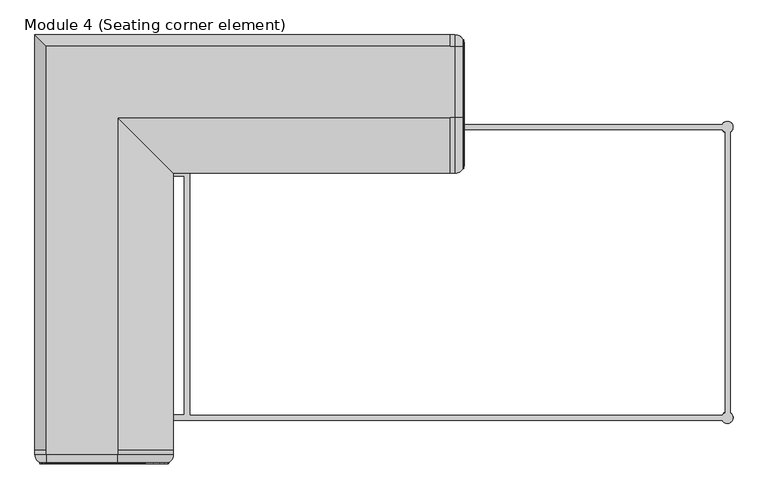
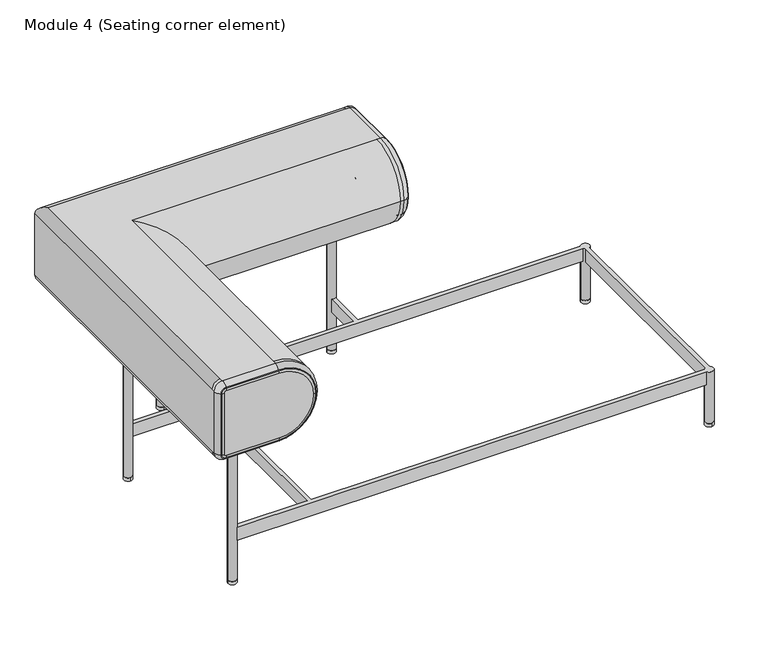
"""IFC4 building model written with IfcOpenShell, lengths in millimetres: furniture geometry, Module 4 (Seating corner element) : 1600х930х710мм."""

from ifc_helpers import new_model, si_unit, point, frame, frame_2d, origin, origin_with_axes, place, context, project, spatial, circle_curve, ellipse_curve, trimmed, segment, composite_curve, outline, extrude, source, transform, mapped, element, save
from ifc_brep_helpers import plane_surface, cylinder_surface, revolved_surface, advanced_brep


def module_4_seating_corner_element_8d6210f8(model_context):
    return source(origin(), model_context, "Body", "SolidModel", [
        extrude(outline(composite_curve([segment(trimmed(circle_curve(frame_2d((-30.0, -300.0281998)), 12.5), [point((-30.0, -312.5281998))], [point((-30.0, -287.5281998))], False, "CARTESIAN"), True, "CONTINUOUS"), segment(trimmed(circle_curve(frame_2d((-30.0, -300.0281998)), 12.5), [point((-30.0, -287.5281998))], [point((-30.0, -312.5281998))], False, "CARTESIAN"), True, "CONTINUOUS")], self_intersect=False)), origin_with_axes(), (0.0, 0.0, 1.0), 10.0),
        extrude(outline(composite_curve([segment(trimmed(circle_curve(frame_2d((-30.0, -830.0)), 12.5), [point((-17.5, -830.0))], [point((-42.5, -830.0))], False, "CARTESIAN"), True, "CONTINUOUS"), segment(trimmed(circle_curve(frame_2d((-30.0, -830.0)), 12.5), [point((-42.5, -830.0))], [point((-17.5, -830.0))], False, "CARTESIAN"), True, "CONTINUOUS")], self_intersect=False)), origin_with_axes(), (0.0, 0.0, 1.0), 10.0),
        extrude(outline(composite_curve([segment(trimmed(circle_curve(frame_2d((1370.0, -200.0)), 12.5), [point((1382.5, -200.0))], [point((1357.5, -200.0))], False, "CARTESIAN"), True, "CONTINUOUS"), segment(trimmed(circle_curve(frame_2d((1370.0, -200.0)), 12.5), [point((1357.5, -200.0))], [point((1382.5, -200.0))], False, "CARTESIAN"), True, "CONTINUOUS")], self_intersect=False)), origin_with_axes(), (0.0, 0.0, 1.0), 10.0),
        extrude(outline(composite_curve([segment(trimmed(circle_curve(frame_2d((700.0, -70.0)), 12.5), [point((712.5, -70.0))], [point((687.5, -70.0))], False, "CARTESIAN"), True, "CONTINUOUS"), segment(trimmed(circle_curve(frame_2d((700.0, -70.0)), 12.5), [point((687.5, -70.0))], [point((712.5, -70.0))], False, "CARTESIAN"), True, "CONTINUOUS")], self_intersect=False)), origin_with_axes(), (0.0, 0.0, 1.0), 10.0),
        extrude(outline(composite_curve([segment(trimmed(circle_curve(frame_2d((1370.0, -830.0)), 12.5), [point((1370.0, -842.5))], [point((1370.0, -817.5))], False, "CARTESIAN"), True, "CONTINUOUS"), segment(trimmed(circle_curve(frame_2d((1370.0, -830.0)), 12.5), [point((1370.0, -817.5))], [point((1370.0, -842.5))], False, "CARTESIAN"), True, "CONTINUOUS")], self_intersect=False)), origin_with_axes(), (0.0, 0.0, 1.0), 10.0),
        extrude(outline(composite_curve([segment(trimmed(circle_curve(frame_2d((200.0, -70.0)), 12.5), [point((200.0, -82.5))], [point((200.0, -57.5))], False, "CARTESIAN"), True, "CONTINUOUS"), segment(trimmed(circle_curve(frame_2d((200.0, -70.0)), 12.5), [point((200.0, -57.5))], [point((200.0, -82.5))], False, "CARTESIAN"), True, "CONTINUOUS")], self_intersect=False)), origin_with_axes(), (0.0, 0.0, 1.0), 10.0),
        advanced_brep(
        [(206.0281998, -206.0281998, 130.0), (206.0281998, -206.0281998, 170.0), (206.0281998, -823.9718002, 170.0), (206.0281998, -823.9718002, 130.0), (194.0281998, -306.0281998, 170.0), (194.0281998, -306.0281998, 130.0), (194.0281998, -823.9718002, 130.0), (194.0281998, -823.9718002, 170.0), (194.0281998, -294.0281998, 130.0), (194.0281998, -294.0281998, 170.0), (194.0281998, -80.9812386, 170.0), (194.0281998, -80.9812386, 130.0), (1359.0496207, -823.9718002, 170.0), (1359.0496207, -823.9718002, 130.0), (1359.0187614, -835.9718002, 130.0), (1359.0187614, -835.9718002, 170.0), (-19.0187614, -835.9718002, 170.0), (-19.0187614, -835.9718002, 130.0), (1363.9718002, -819.0496207, 170.0), (1363.9718002, -210.9503793, 170.0), (1363.9718002, -210.9503793, 130.0), (1363.9718002, -819.0496207, 130.0), (1375.9718002, -819.0187614, 130.0), (1375.9718002, -210.9812386, 130.0), (1375.9718002, -210.9812386, 170.0), (1375.9718002, -819.0187614, 170.0), (1359.0496207, -206.0281998, 130.0), (1359.0496207, -206.0281998, 170.0), (1357.5, -830.0, 130.0), (-17.5, -830.0, 130.0), (-19.0496207, -823.9718002, 130.0), (-19.0341439, -306.0281998, 130.0), (-17.5, -300.0281998, 130.0), (-19.0341439, -294.0281998, 130.0), (206.0281998, -80.9503793, 130.0), (206.0281998, -194.0281998, 130.0), (694.0, -194.0281998, 130.0), (694.0, -80.9658561, 130.0), (706.0, -80.9658561, 130.0), (706.0, -194.0281998, 130.0), (1359.0187614, -194.0281998, 130.0), (1357.5, -200.0, 130.0), (1359.0187614, -194.0281998, 170.0), (706.0, -194.0281998, 170.0), (206.0281998, -194.0281998, 170.0), (694.0, -194.0281998, 170.0), (1382.5, -830.0, 170.0), (1382.5, -200.0, 170.0), (706.0, -80.9658561, 170.0), (694.0, -80.9658561, 170.0), (206.0281998, -80.9503793, 170.0), (-19.0341439, -294.0281998, 170.0), (-17.5, -300.0281998, 170.0), (-19.0341439, -306.0281998, 170.0), (-19.0496207, -823.9718002, 170.0), (-17.5, -830.0, 170.0), (1357.5, -830.0, 10.0), (1382.5, -830.0, 10.0), (1357.5, -200.0, 10.0), (1382.5, -200.0, 10.0), (187.5, -70.0, 460.0), (212.5, -70.0, 460.0), (687.5, -70.0, 460.0), (712.5, -70.0, 460.0), (-42.5, -830.0, 460.0), (-17.5, -830.0, 460.0), (-42.5, -300.0281998, 460.0), (-17.5, -300.0281998, 460.0), (187.5, -70.0, 10.0), (212.5, -70.0, 10.0), (687.5, -70.0, 10.0), (712.5, -70.0, 10.0), (-42.5, -830.0, 10.0), (-17.5, -830.0, 10.0), (-42.5, -300.0281998, 10.0), (-17.5, -300.0281998, 10.0)],
        [
            (0, 1),
            (1, 2),
            (2, 3),
            (3, 0),
            (4, 5),
            (5, 6),
            (6, 7),
            (7, 4),
            (8, 9),
            (9, 10),
            (10, 11),
            (11, 8),
            (2, 12),
            (12, 13),
            (13, 3),
            (14, 15),
            (15, 16),
            (16, 17),
            (17, 14),
            (18, 19),
            (19, 20),
            (20, 21),
            (21, 18),
            (22, 23),
            (23, 24),
            (24, 25),
            (25, 22),
            (0, 26),
            (26, 27),
            (27, 1),
            (13, 28, circle_curve(frame((1370.0, -830.0, 130.0), z_axis=(0.0, 0.0, 1.0), x_axis=(1.0, 0.0, 0.0)), 12.5)),
            (28, 14, circle_curve(frame((1370.0, -830.0, 130.0), z_axis=(0.0, 0.0, 1.0), x_axis=(1.0, 0.0, 0.0)), 12.5)),
            (17, 29, circle_curve(frame((-30.0, -830.0, 130.0), z_axis=(0.0, 0.0, 1.0), x_axis=(1.0, 0.0, 0.0)), 12.5)),
            (29, 30, circle_curve(frame((-30.0, -830.0, 130.0), z_axis=(0.0, 0.0, 1.0), x_axis=(1.0, 0.0, 0.0)), 12.5)),
            (30, 6),
            (5, 31),
            (31, 32, circle_curve(frame((-30.0, -300.0281998, 130.0), z_axis=(0.0, 0.0, 1.0), x_axis=(1.0, 0.0, 0.0)), 12.5)),
            (32, 33, circle_curve(frame((-30.0, -300.0281998, 130.0), z_axis=(0.0, 0.0, 1.0), x_axis=(1.0, 0.0, 0.0)), 12.5)),
            (33, 8),
            (11, 34, circle_curve(frame((200.0, -70.0, 130.0), z_axis=(0.0, 0.0, 1.0), x_axis=(1.0, 0.0, 0.0)), 12.5)),
            (34, 35),
            (35, 36),
            (36, 37),
            (37, 38, circle_curve(frame((700.0, -70.0, 130.0), z_axis=(0.0, 0.0, 1.0), x_axis=(1.0, 0.0, 0.0)), 12.5)),
            (38, 39),
            (39, 40),
            (40, 41, circle_curve(frame((1370.0, -200.0, 130.0), z_axis=(0.0, 0.0, 1.0), x_axis=(1.0, 0.0, 0.0)), 12.5)),
            (41, 26, circle_curve(frame((1370.0, -200.0, 130.0), z_axis=(0.0, 0.0, 1.0), x_axis=(1.0, 0.0, 0.0)), 12.5)),
            (22, 21, circle_curve(frame((1370.0, -830.0, 130.0), z_axis=(0.0, 0.0, 1.0), x_axis=(1.0, 0.0, 0.0)), 12.5)),
            (20, 23, circle_curve(frame((1370.0, -200.0, 130.0), z_axis=(0.0, 0.0, 1.0), x_axis=(1.0, 0.0, 0.0)), 12.5)),
            (42, 40),
            (39, 43),
            (43, 42),
            (35, 44),
            (44, 45),
            (45, 36),
            (15, 46, circle_curve(frame((1370.0, -830.0, 170.0), z_axis=(0.0, 0.0, 1.0), x_axis=(1.0, 0.0, 0.0)), 12.5)),
            (46, 25, circle_curve(frame((1370.0, -830.0, 170.0), z_axis=(0.0, 0.0, 1.0), x_axis=(1.0, 0.0, 0.0)), 12.5)),
            (24, 47, circle_curve(frame((1370.0, -200.0, 170.0), z_axis=(0.0, 0.0, 1.0), x_axis=(1.0, 0.0, 0.0)), 12.5)),
            (47, 42, circle_curve(frame((1370.0, -200.0, 170.0), z_axis=(0.0, 0.0, 1.0), x_axis=(1.0, 0.0, 0.0)), 12.5)),
            (43, 48),
            (48, 49, circle_curve(frame((700.0, -70.0, 170.0), z_axis=(0.0, 0.0, -1.0), x_axis=(1.0, 0.0, 0.0)), 12.5)),
            (49, 45),
            (44, 50),
            (50, 10, circle_curve(frame((200.0, -70.0, 170.0), z_axis=(0.0, 0.0, -1.0), x_axis=(1.0, 0.0, 0.0)), 12.5)),
            (9, 51),
            (51, 52, circle_curve(frame((-30.0, -300.0281998, 170.0), z_axis=(0.0, 0.0, -1.0), x_axis=(1.0, 0.0, 0.0)), 12.5)),
            (52, 53, circle_curve(frame((-30.0, -300.0281998, 170.0), z_axis=(0.0, 0.0, -1.0), x_axis=(1.0, 0.0, 0.0)), 12.5)),
            (53, 4),
            (7, 54),
            (54, 55, circle_curve(frame((-30.0, -830.0, 170.0), z_axis=(0.0, 0.0, -1.0), x_axis=(1.0, 0.0, 0.0)), 12.5)),
            (55, 16, circle_curve(frame((-30.0, -830.0, 170.0), z_axis=(0.0, 0.0, -1.0), x_axis=(1.0, 0.0, 0.0)), 12.5)),
            (27, 19, circle_curve(frame((1370.0, -200.0, 170.0), z_axis=(0.0, 0.0, 1.0), x_axis=(1.0, 0.0, 0.0)), 12.5)),
            (18, 12, circle_curve(frame((1370.0, -830.0, 170.0), z_axis=(0.0, 0.0, 1.0), x_axis=(1.0, 0.0, 0.0)), 12.5)),
            (56, 57, circle_curve(frame((1370.0, -830.0, 10.0), z_axis=(0.0, 0.0, -1.0), x_axis=(1.0, 0.0, 0.0)), 12.5)),
            (57, 56, circle_curve(frame((1370.0, -830.0, 10.0), z_axis=(0.0, 0.0, -1.0), x_axis=(1.0, 0.0, 0.0)), 12.5)),
            (58, 59, circle_curve(frame((1370.0, -200.0, 10.0), z_axis=(0.0, 0.0, -1.0), x_axis=(1.0, 0.0, 0.0)), 12.5)),
            (59, 58, circle_curve(frame((1370.0, -200.0, 10.0), z_axis=(0.0, 0.0, -1.0), x_axis=(1.0, 0.0, 0.0)), 12.5)),
            (57, 46),
            (28, 56),
            (59, 47),
            (41, 58),
            (60, 61, circle_curve(frame((200.0, -70.0, 460.0), z_axis=(0.0, 0.0, 1.0), x_axis=(1.0, 0.0, 0.0)), 12.5)),
            (61, 60, circle_curve(frame((200.0, -70.0, 460.0), z_axis=(0.0, 0.0, 1.0), x_axis=(1.0, 0.0, 0.0)), 12.5)),
            (62, 63, circle_curve(frame((700.0, -70.0, 460.0), z_axis=(0.0, 0.0, 1.0), x_axis=(1.0, 0.0, 0.0)), 12.5)),
            (63, 62, circle_curve(frame((700.0, -70.0, 460.0), z_axis=(0.0, 0.0, 1.0), x_axis=(1.0, 0.0, 0.0)), 12.5)),
            (64, 65, circle_curve(frame((-30.0, -830.0, 460.0), z_axis=(0.0, 0.0, 1.0), x_axis=(1.0, 0.0, 0.0)), 12.5)),
            (65, 64, circle_curve(frame((-30.0, -830.0, 460.0), z_axis=(0.0, 0.0, 1.0), x_axis=(1.0, 0.0, 0.0)), 12.5)),
            (66, 67, circle_curve(frame((-30.0, -300.0281998, 460.0), z_axis=(0.0, 0.0, 1.0), x_axis=(1.0, 0.0, 0.0)), 12.5)),
            (67, 66, circle_curve(frame((-30.0, -300.0281998, 460.0), z_axis=(0.0, 0.0, 1.0), x_axis=(1.0, 0.0, 0.0)), 12.5)),
            (68, 69, circle_curve(frame((200.0, -70.0, 10.0), z_axis=(0.0, 0.0, -1.0), x_axis=(1.0, 0.0, 0.0)), 12.5)),
            (69, 68, circle_curve(frame((200.0, -70.0, 10.0), z_axis=(0.0, 0.0, -1.0), x_axis=(1.0, 0.0, 0.0)), 12.5)),
            (70, 71, circle_curve(frame((700.0, -70.0, 10.0), z_axis=(0.0, 0.0, -1.0), x_axis=(1.0, 0.0, 0.0)), 12.5)),
            (71, 70, circle_curve(frame((700.0, -70.0, 10.0), z_axis=(0.0, 0.0, -1.0), x_axis=(1.0, 0.0, 0.0)), 12.5)),
            (72, 73, circle_curve(frame((-30.0, -830.0, 10.0), z_axis=(0.0, 0.0, -1.0), x_axis=(1.0, 0.0, 0.0)), 12.5)),
            (73, 72, circle_curve(frame((-30.0, -830.0, 10.0), z_axis=(0.0, 0.0, -1.0), x_axis=(1.0, 0.0, 0.0)), 12.5)),
            (74, 75, circle_curve(frame((-30.0, -300.0281998, 10.0), z_axis=(0.0, 0.0, -1.0), x_axis=(1.0, 0.0, 0.0)), 12.5)),
            (75, 74, circle_curve(frame((-30.0, -300.0281998, 10.0), z_axis=(0.0, 0.0, -1.0), x_axis=(1.0, 0.0, 0.0)), 12.5)),
            (60, 68),
            (69, 61),
            (50, 34),
            (62, 70),
            (71, 63),
            (48, 38),
            (37, 49),
            (64, 72),
            (73, 29),
            (55, 65),
            (54, 30),
            (53, 31),
            (33, 51),
            (66, 74),
            (75, 32),
            (52, 67),
        ],
        [
            plane_surface(frame((206.0281998, -206.0281998, 170.0), z_axis=(1.0, 0.0, 0.0), x_axis=(0.0, -1.0, 0.0))),
            plane_surface(frame((194.0281998, -194.0281998, 130.0), z_axis=(-1.0, 0.0, 0.0), x_axis=(0.0, -1.0, 0.0))),
            plane_surface(frame((206.0281998, -823.9718002, 170.0), z_axis=(0.0, 1.0, 0.0), x_axis=(1.0, 0.0, 0.0))),
            plane_surface(frame((194.0281998, -835.9718002, 130.0), z_axis=(0.0, -1.0, 0.0), x_axis=(1.0, 0.0, 0.0))),
            plane_surface(frame((1363.9718002, -823.9718002, 170.0), z_axis=(-1.0, 0.0, 0.0), x_axis=(0.0, 1.0, 0.0))),
            plane_surface(frame((1375.9718002, -835.9718002, 130.0), z_axis=(1.0, 0.0, 0.0), x_axis=(0.0, 1.0, 0.0))),
            plane_surface(frame((1363.9718002, -206.0281998, 170.0), z_axis=(0.0, -1.0, 0.0), x_axis=(-1.0, 0.0, 0.0))),
            plane_surface(frame((1363.9718002, -206.0281998, 130.0), z_axis=(0.0, 0.0, -1.0), x_axis=(-1.0, 0.0, 0.0))),
            plane_surface(frame((1375.9718002, -194.0281998, 130.0), z_axis=(0.0, 1.0, 0.0), x_axis=(-1.0, 0.0, 0.0))),
            plane_surface(frame((1375.9718002, -194.0281998, 170.0), z_axis=(0.0, 0.0, 1.0), x_axis=(-1.0, 0.0, 0.0))),
            plane_surface(frame((1382.5, -830.0, 10.0), z_axis=(0.0, 0.0, -1.0), x_axis=(0.0, -1.0, 0.0))),
            cylinder_surface(frame((1370.0, -830.0, 10.0), z_axis=(0.0, 0.0, 1.0), x_axis=(1.0, 0.0, 0.0)), 12.5),
            cylinder_surface(frame((1370.0, -200.0, 0.0), z_axis=(0.0, 0.0, 1.0), x_axis=(1.0, 0.0, 0.0)), 12.5),
            plane_surface(frame((212.5, -70.0, 460.0), z_axis=(0.0, 0.0, 1.0), x_axis=(0.0, 1.0, 0.0))),
            plane_surface(frame((212.5, -70.0, 10.0), z_axis=(0.0, 0.0, -1.0), x_axis=(0.0, -1.0, 0.0))),
            cylinder_surface(frame((200.0, -70.0, 10.0), z_axis=(0.0, 0.0, 1.0), x_axis=(1.0, 0.0, 0.0)), 12.5),
            cylinder_surface(frame((700.0, -70.0, 0.0), z_axis=(0.0, 0.0, 1.0), x_axis=(1.0, 0.0, 0.0)), 12.5),
            plane_surface(frame((206.0281998, -70.0, 170.0), z_axis=(1.0, 0.0, 0.0), x_axis=(0.0, -1.0, 0.0))),
            plane_surface(frame((706.0, -70.0, 170.0), z_axis=(1.0, 0.0, 0.0), x_axis=(0.0, -1.0, 0.0))),
            plane_surface(frame((694.0, -70.0, 130.0), z_axis=(-1.0, 0.0, 0.0), x_axis=(0.0, -1.0, 0.0))),
            cylinder_surface(frame((-30.0, -830.0, 0.0), z_axis=(0.0, 0.0, 1.0), x_axis=(1.0, 0.0, 0.0)), 12.5),
            plane_surface(frame((200.0, -823.9718002, 130.0), z_axis=(0.0, 1.0, 0.0), x_axis=(-1.0, 0.0, 0.0))),
            plane_surface(frame((206.0281998, -306.0281998, 170.0), z_axis=(0.0, -1.0, 0.0), x_axis=(-1.0, 0.0, 0.0))),
            plane_surface(frame((194.0281998, -294.0281998, 130.0), z_axis=(0.0, 1.0, 0.0), x_axis=(-1.0, 0.0, 0.0))),
            cylinder_surface(frame((-30.0, -300.0281998, 0.0), z_axis=(0.0, 0.0, 1.0), x_axis=(1.0, 0.0, 0.0)), 12.5),
        ],
        [
            (0, [[1, 2, 3, 4]]),
            (1, [[5, 6, 7, 8]]),
            (1, [[9, 10, 11, 12]]),
            (2, [[-3, 13, 14, 15]]),
            (3, [[16, 17, 18, 19]]),
            (4, [[20, 21, 22, 23]]),
            (5, [[24, 25, 26, 27]]),
            (6, [[-1, 28, 29, 30]]),
            (7, [[-15, 31, 32, -19, 33, 34, 35, -6, 36, 37, 38, 39, -12, 40, 41, 42, 43, 44, 45, 46, 47, 48, -28, -4]]),
            (7, [[-24, 49, -22, 50]]),
            (8, [[51, -46, 52, 53]]),
            (8, [[54, 55, 56, -42]]),
            (9, [[-17, 57, 58, -26, 59, 60, -53, 61, 62, 63, -55, 64, 65, -10, 66, 67, 68, 69, -8, 70, 71, 72], [-13, -2, -30, 73, -20, 74]]),
            (10, [[75, 76]]),
            (10, [[77, 78]]),
            (11, [[-76, 79, -57, -16, -32, 80]]),
            (11, [[-75, -80, -31, -14, -74, -23, -49, -27, -58, -79]]),
            (12, [[-78, 81, -59, -25, -50, -21, -73, -29, -48, 82]]),
            (12, [[-77, -82, -47, -51, -60, -81]]),
            (13, [[83, 84]]),
            (13, [[85, 86]]),
            (13, [[87, 88]]),
            (13, [[89, 90]]),
            (14, [[91, 92]]),
            (14, [[93, 94]]),
            (14, [[95, 96]]),
            (14, [[97, 98]]),
            (15, [[-83, 99, -92, 100], [101, -40, -11, -65]]),
            (15, [[-84, -100, -91, -99]]),
            (16, [[-85, 102, -94, 103], [104, -44, 105, -62]]),
            (16, [[-86, -103, -93, -102]]),
            (17, [[-64, -54, -41, -101]]),
            (18, [[-61, -52, -45, -104]]),
            (19, [[-43, -56, -63, -105]]),
            (20, [[-87, 106, -96, 107, -33, -18, -72, 108]]),
            (20, [[-88, -108, -71, 109, -34, -107, -95, -106]]),
            (21, [[-70, -7, -35, -109]]),
            (22, [[-36, -5, -69, 110]]),
            (23, [[-66, -9, -39, 111]]),
            (24, [[-89, 112, -98, 113, -37, -110, -68, 114]]),
            (24, [[-90, -114, -67, -111, -38, -113, -97, -112]]),
        ],
    ),
        advanced_brep(
        [(800.0, -180.0, 680.0), (800.0, -280.0, 580.0), (800.0, -180.0, 480.0), (800.0, -25.0, 480.0), (800.0, -20.0, 485.0), (800.0, -20.0, 675.0), (800.0, -25.0000011, 680.0), (798.319335, -180.0, 688.0250834), (798.319335, -288.0250834, 580.0), (780.0, -300.0, 580.0), (780.0, -180.0, 700.0), (770.0, -180.0, 700.0), (770.0, -300.0, 580.0), (798.319335, -180.0, 471.9749166), (770.0, -180.0, 460.0), (780.0, -180.0, 460.0), (798.319335, -25.0, 471.9749166), (50.0, -180.0, 460.0), (50.0, -900.0, 460.0), (50.0, -910.0, 460.0), (-105.0, -910.0, 460.0), (-105.0, -900.0, 460.0), (-105.0, -25.0, 460.0), (770.0, -25.0, 460.0), (780.0, -25.0, 460.0), (798.319335, -11.9749166, 485.0), (770.0, 0.0, 485.0), (780.0, 0.0, 485.0), (798.319335, -11.9749166, 675.0), (-130.0, 0.0, 485.0), (-130.0, 0.0, 675.0), (770.0, 0.0, 675.0), (780.0, 0.0, 675.0), (798.319335, -25.0, 688.0250834), (770.0, -25.0, 700.0), (780.0, -25.0, 700.0), (-105.0, -25.0, 700.0), (-105.0, -900.0, 700.0), (-105.0, -910.0, 700.0), (50.0, -910.0, 700.0), (50.0, -900.0, 700.0), (50.0, -180.0, 700.0), (797.9066419, -288.9079837, 580.0), (797.9066419, -180.0, 688.9079837), (797.9066419, -180.0, 471.0920163), (797.9066419, -25.0, 471.0920163), (797.9066419, -11.0920163, 485.0), (797.9066419, -11.0920163, 675.0), (797.9066419, -25.0, 688.9079837), (170.0, -300.0, 580.0), (-130.0, -900.0, 485.0), (-130.0, -910.0, 485.0), (-130.0, -910.0, 675.0), (-130.0, -900.0, 675.0), (170.0, -900.0, 580.0), (-105.0, -930.0, 680.0), (-110.0, -930.0, 675.0), (-110.0, -930.0, 485.0), (-105.0, -930.0, 480.0), (50.0, -930.0, 480.0), (150.0, -930.0, 580.0), (49.9999944, -930.0, 680.0), (-105.0, -928.2181361, 688.2522432), (-118.2522432, -928.2181361, 675.0), (-118.2522432, -928.2181361, 485.0), (-105.0, -928.2181361, 471.7477568), (50.0, -928.2181361, 471.7477568), (158.2522432, -928.2181361, 580.0), (170.0, -910.0, 580.0), (50.0, -928.2181361, 688.2522432), (-118.9180637, -927.9016239, 675.0), (-105.0, -927.9016239, 688.9180637), (-118.9180637, -927.9016239, 485.0), (-105.0, -927.9016239, 471.0819363), (50.0, -927.9016239, 471.0819363), (158.9180637, -927.9016239, 580.0), (50.0, -927.9016239, 688.9180637)],
        [
            (0, 1, circle_curve(frame((800.0, -180.0, 580.0), z_axis=(1.0, 0.0, 0.0), x_axis=(0.0, 0.0, 1.0)), 100.0)),
            (1, 2, circle_curve(frame((800.0, -180.0, 580.0), z_axis=(1.0, 0.0, 0.0), x_axis=(0.0, -1.0, 0.0)), 100.0)),
            (2, 3),
            (3, 4, circle_curve(frame((800.0, -25.0, 485.0), z_axis=(1.0, 0.0, 0.0), x_axis=(0.0, 0.0, -1.0)), 5.0)),
            (4, 5),
            (5, 6, circle_curve(frame((800.0, -25.0, 675.0), z_axis=(1.0, 0.0, 0.0), x_axis=(0.0, 1.0, 0.0)), 5.0)),
            (6, 0),
            (0, 7, circle_curve(frame((780.0, -180.0, 680.0), z_axis=(0.0, -1.0, 0.0), x_axis=(0.0, 0.0, -1.0)), 20.0)),
            (7, 8, circle_curve(frame((798.319335, -180.0, 580.0), z_axis=(1.0, 0.0, 0.0), x_axis=(0.0, 0.0, 1.0)), 108.0250834)),
            (8, 1, circle_curve(frame((780.0, -280.0, 580.0), z_axis=(0.0, 0.0, 1.0), x_axis=(0.0, 1.0, 0.0)), 20.0)),
            (9, 10, circle_curve(frame((780.0, -180.0, 580.0), z_axis=(-1.0, 0.0, 0.0), x_axis=(0.0, 0.0, 1.0)), 120.0)),
            (10, 11),
            (11, 12, circle_curve(frame((770.0, -180.0, 580.0), z_axis=(1.0, 0.0, 0.0), x_axis=(0.0, 0.0, 1.0)), 120.0)),
            (12, 9),
            (8, 13, circle_curve(frame((798.319335, -180.0, 580.0), z_axis=(1.0, 0.0, 0.0), x_axis=(0.0, -1.0, 0.0)), 108.0250834)),
            (13, 2, circle_curve(frame((780.0, -180.0, 480.0), z_axis=(0.0, -1.0, 0.0), x_axis=(0.0, 0.0, 1.0)), 20.0)),
            (12, 14, circle_curve(frame((770.0, -180.0, 580.0), z_axis=(1.0, 0.0, 0.0), x_axis=(0.0, -1.0, 0.0)), 120.0)),
            (14, 15),
            (15, 9, circle_curve(frame((780.0, -180.0, 580.0), z_axis=(-1.0, 0.0, 0.0), x_axis=(0.0, -1.0, 0.0)), 120.0)),
            (13, 16),
            (16, 3, circle_curve(frame((780.0, -25.0, 480.0), z_axis=(0.0, -1.0, 0.0), x_axis=(0.0, 0.0, 1.0)), 20.0)),
            (14, 17),
            (17, 18),
            (18, 19),
            (19, 20),
            (20, 21),
            (21, 22),
            (22, 23),
            (23, 24),
            (24, 15),
            (16, 25, circle_curve(frame((798.319335, -25.0, 485.0), z_axis=(1.0, 0.0, 0.0), x_axis=(0.0, 0.0, -1.0)), 13.0250834)),
            (25, 4, circle_curve(frame((780.0, -20.0, 485.0), z_axis=(0.0, 0.0, -1.0), x_axis=(0.0, -1.0, 0.0)), 20.0)),
            (23, 26, circle_curve(frame((770.0, -25.0, 485.0), z_axis=(1.0, 0.0, 0.0), x_axis=(0.0, 0.0, -1.0)), 25.0)),
            (26, 27),
            (27, 24, circle_curve(frame((780.0, -25.0, 485.0), z_axis=(-1.0, 0.0, 0.0), x_axis=(0.0, 0.0, -1.0)), 25.0)),
            (25, 28),
            (28, 5, circle_curve(frame((780.0, -20.0, 675.0), z_axis=(0.0, 0.0, -1.0), x_axis=(0.0, -1.0, 0.0)), 20.0)),
            (26, 29),
            (29, 30),
            (30, 31),
            (31, 32),
            (32, 27),
            (28, 33, circle_curve(frame((798.319335, -25.0, 675.0), z_axis=(1.0, 0.0, 0.0), x_axis=(0.0, 1.0, 0.0)), 13.0250834)),
            (33, 6, circle_curve(frame((780.0, -25.0, 680.0), z_axis=(0.0, 1.0, 0.0), x_axis=(0.0, 0.0, -1.0)), 20.0)),
            (31, 34, circle_curve(frame((770.0, -25.0, 675.0), z_axis=(1.0, 0.0, 0.0), x_axis=(0.0, 1.0, 0.0)), 25.0)),
            (34, 35),
            (35, 32, circle_curve(frame((780.0, -25.0, 675.0), z_axis=(-1.0, 0.0, 0.0), x_axis=(0.0, 1.0, 0.0)), 25.0)),
            (33, 7),
            (10, 35),
            (34, 36),
            (36, 37),
            (37, 38),
            (38, 39),
            (39, 40),
            (40, 41),
            (41, 11),
            (9, 42, circle_curve(frame((780.0, -280.0, 580.0), z_axis=(0.0, 0.0, 1.0), x_axis=(0.0, 1.0, 0.0)), 20.0)),
            (42, 43, circle_curve(frame((797.9066419, -180.0, 580.0), z_axis=(-1.0, 0.0, 0.0), x_axis=(0.0, 0.0, 1.0)), 108.9079837)),
            (43, 10, circle_curve(frame((780.0, -180.0, 680.0), z_axis=(0.0, -1.0, 0.0), x_axis=(0.0, 0.0, -1.0)), 20.0)),
            (7, 43, circle_curve(frame((798.6877598, -180.0, 688.7351983), z_axis=(0.0, -1.0, 0.0), x_axis=(0.0, 0.0, -1.0)), 0.8)),
            (42, 8, circle_curve(frame((798.6877598, -288.7351983, 580.0), z_axis=(0.0, 0.0, 1.0), x_axis=(0.0, 1.0, 0.0)), 0.8)),
            (15, 44, circle_curve(frame((780.0, -180.0, 480.0), z_axis=(0.0, -1.0, 0.0), x_axis=(0.0, 0.0, 1.0)), 20.0)),
            (44, 42, circle_curve(frame((797.9066419, -180.0, 580.0), z_axis=(-1.0, 0.0, 0.0), x_axis=(0.0, -1.0, 0.0)), 108.9079837)),
            (44, 13, circle_curve(frame((798.6877598, -180.0, 471.2648017), z_axis=(0.0, -1.0, 0.0), x_axis=(0.0, 0.0, 1.0)), 0.8)),
            (24, 45, circle_curve(frame((780.0, -25.0, 480.0), z_axis=(0.0, -1.0, 0.0), x_axis=(0.0, 0.0, 1.0)), 20.0)),
            (45, 44),
            (45, 16, circle_curve(frame((798.6877598, -25.0, 471.2648017), z_axis=(0.0, -1.0, 0.0), x_axis=(0.0, 0.0, 1.0)), 0.8)),
            (27, 46, circle_curve(frame((780.0, -20.0, 485.0), z_axis=(0.0, 0.0, -1.0), x_axis=(0.0, -1.0, 0.0)), 20.0)),
            (46, 45, circle_curve(frame((797.9066419, -25.0, 485.0), z_axis=(-1.0, 0.0, 0.0), x_axis=(0.0, 0.0, -1.0)), 13.9079837)),
            (46, 25, circle_curve(frame((798.6877598, -11.2648017, 485.0), z_axis=(0.0, 0.0, -1.0), x_axis=(0.0, -1.0, 0.0)), 0.8)),
            (32, 47, circle_curve(frame((780.0, -20.0, 675.0), z_axis=(0.0, 0.0, -1.0), x_axis=(0.0, -1.0, 0.0)), 20.0)),
            (47, 46),
            (47, 28, circle_curve(frame((798.6877598, -11.2648017, 675.0), z_axis=(0.0, 0.0, -1.0), x_axis=(0.0, -1.0, 0.0)), 0.8)),
            (35, 48, circle_curve(frame((780.0, -25.0, 680.0), z_axis=(0.0, 1.0, 0.0), x_axis=(0.0, 0.0, -1.0)), 20.0)),
            (48, 47, circle_curve(frame((797.9066419, -25.0, 675.0), z_axis=(-1.0, 0.0, 0.0), x_axis=(0.0, 1.0, 0.0)), 13.9079837)),
            (48, 33, circle_curve(frame((798.6877598, -25.0, 688.7351983), z_axis=(0.0, 1.0, 0.0), x_axis=(0.0, 0.0, -1.0)), 0.8)),
            (43, 48),
            (30, 36, ellipse_curve(frame((-105.0, -25.0, 675.0), z_axis=(0.7071067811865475, 0.7071067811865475, 0.0), x_axis=(0.7071067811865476, -0.7071067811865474, 0.0)), 35.3553391, 25.0)),
            (41, 49, ellipse_curve(frame((50.0, -180.0, 580.0), z_axis=(0.7071067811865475, 0.7071067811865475, 0.0), x_axis=(0.7071067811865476, -0.7071067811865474, 0.0)), 169.7056275, 120.0)),
            (49, 12),
            (49, 17, ellipse_curve(frame((50.0, -180.0, 580.0), z_axis=(0.7071067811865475, 0.7071067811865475, 0.0), x_axis=(0.7071067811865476, -0.7071067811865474, 0.0)), 169.7056275, 120.0)),
            (22, 29, ellipse_curve(frame((-105.0, -25.0, 485.0), z_axis=(0.7071067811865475, 0.7071067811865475, 0.0), x_axis=(0.7071067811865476, -0.7071067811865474, 0.0)), 35.3553391, 25.0)),
            (29, 50),
            (50, 51),
            (51, 52),
            (52, 53),
            (53, 30),
            (53, 37, circle_curve(frame((-105.0, -900.0, 675.0), z_axis=(0.0, 1.0, 0.0), x_axis=(1.0, 0.0, 0.0)), 25.0)),
            (40, 54, circle_curve(frame((50.0, -900.0, 580.0), z_axis=(0.0, 1.0, 0.0), x_axis=(1.0, 0.0, 0.0)), 120.0)),
            (54, 49),
            (54, 18, circle_curve(frame((50.0, -900.0, 580.0), z_axis=(0.0, 1.0, 0.0), x_axis=(1.0, 0.0, 0.0)), 120.0)),
            (21, 50, circle_curve(frame((-105.0, -900.0, 485.0), z_axis=(0.0, 1.0, 0.0), x_axis=(1.0, 0.0, 0.0)), 25.0)),
            (55, 56, circle_curve(frame((-105.0, -930.0, 675.0), z_axis=(0.0, -1.0, 0.0), x_axis=(0.0, 0.0, 1.0)), 5.0)),
            (56, 57),
            (57, 58, circle_curve(frame((-105.0, -930.0, 485.0), z_axis=(0.0, -1.0, 0.0), x_axis=(-1.0, 0.0, 0.0)), 5.0)),
            (58, 59),
            (59, 60, circle_curve(frame((50.0, -930.0, 580.0), z_axis=(0.0, -1.0, 0.0), x_axis=(0.0, 0.0, -1.0)), 100.0)),
            (60, 61, circle_curve(frame((50.0, -930.0, 580.0), z_axis=(0.0, -1.0, 0.0), x_axis=(1.0, 0.0, 0.0)), 100.0)),
            (61, 55),
            (55, 62, circle_curve(frame((-105.0, -910.0, 680.0), z_axis=(-1.0, 0.0, 0.0), x_axis=(0.0, 0.0, -1.0)), 20.0)),
            (62, 63, circle_curve(frame((-105.0, -928.2181361, 675.0), z_axis=(0.0, -1.0, 0.0), x_axis=(0.0, 0.0, 1.0)), 13.2522432)),
            (63, 56, circle_curve(frame((-110.0, -910.0, 675.0), z_axis=(0.0, 0.0, 1.0), x_axis=(1.0, 0.0, 0.0)), 20.0)),
            (52, 38, circle_curve(frame((-105.0, -910.0, 675.0), z_axis=(0.0, 1.0, 0.0), x_axis=(0.0, 0.0, 1.0)), 25.0)),
            (63, 64),
            (64, 57, circle_curve(frame((-110.0, -910.0, 485.0), z_axis=(0.0, 0.0, 1.0), x_axis=(1.0, 0.0, 0.0)), 20.0)),
            (64, 65, circle_curve(frame((-105.0, -928.2181361, 485.0), z_axis=(0.0, -1.0, 0.0), x_axis=(-1.0, 0.0, 0.0)), 13.2522432)),
            (65, 58, circle_curve(frame((-105.0, -910.0, 480.0), z_axis=(-1.0, 0.0, 0.0), x_axis=(0.0, 0.0, 1.0)), 20.0)),
            (20, 51, circle_curve(frame((-105.0, -910.0, 485.0), z_axis=(0.0, 1.0, 0.0), x_axis=(-1.0, 0.0, 0.0)), 25.0)),
            (65, 66),
            (66, 59, circle_curve(frame((50.0, -910.0, 480.0), z_axis=(-1.0, 0.0, 0.0), x_axis=(0.0, 0.0, 1.0)), 20.0)),
            (66, 67, circle_curve(frame((50.0, -928.2181361, 580.0), z_axis=(0.0, -1.0, 0.0), x_axis=(0.0, 0.0, -1.0)), 108.2522432)),
            (67, 60, circle_curve(frame((150.0, -910.0, 580.0), z_axis=(0.0, 0.0, -1.0), x_axis=(-1.0, 0.0, 0.0)), 20.0)),
            (54, 68),
            (68, 19, circle_curve(frame((50.0, -910.0, 580.0), z_axis=(0.0, 1.0, 0.0), x_axis=(0.0, 0.0, -1.0)), 120.0)),
            (67, 69, circle_curve(frame((50.0, -928.2181361, 580.0), z_axis=(0.0, -1.0, 0.0), x_axis=(1.0, 0.0, 0.0)), 108.2522432)),
            (69, 61, circle_curve(frame((50.0, -910.0, 680.0), z_axis=(1.0, 0.0, 0.0), x_axis=(0.0, 0.0, -1.0)), 20.0)),
            (39, 68, circle_curve(frame((50.0, -910.0, 580.0), z_axis=(0.0, 1.0, 0.0), x_axis=(1.0, 0.0, 0.0)), 120.0)),
            (69, 62),
            (52, 70, circle_curve(frame((-110.0, -910.0, 675.0), z_axis=(0.0, 0.0, 1.0), x_axis=(1.0, 0.0, 0.0)), 20.0)),
            (70, 71, circle_curve(frame((-105.0, -927.9016239, 675.0), z_axis=(0.0, 1.0, 0.0), x_axis=(0.0, 0.0, 1.0)), 13.9180637)),
            (71, 38, circle_curve(frame((-105.0, -910.0, 680.0), z_axis=(-1.0, 0.0, 0.0), x_axis=(0.0, 0.0, -1.0)), 20.0)),
            (62, 71, circle_curve(frame((-105.0, -928.7389915, 688.9079837), z_axis=(-1.0, 0.0, 0.0), x_axis=(0.0, 0.0, -1.0)), 0.8374282)),
            (70, 63, circle_curve(frame((-118.9079837, -928.7389915, 675.0), z_axis=(0.0, 0.0, 1.0), x_axis=(1.0, 0.0, 0.0)), 0.8374282)),
            (51, 72, circle_curve(frame((-110.0, -910.0, 485.0), z_axis=(0.0, 0.0, 1.0), x_axis=(1.0, 0.0, 0.0)), 20.0)),
            (72, 70),
            (72, 64, circle_curve(frame((-118.9079837, -928.7389915, 485.0), z_axis=(0.0, 0.0, 1.0), x_axis=(1.0, 0.0, 0.0)), 0.8374282)),
            (20, 73, circle_curve(frame((-105.0, -910.0, 480.0), z_axis=(-1.0, 0.0, 0.0), x_axis=(0.0, 0.0, 1.0)), 20.0)),
            (73, 72, circle_curve(frame((-105.0, -927.9016239, 485.0), z_axis=(0.0, 1.0, 0.0), x_axis=(-1.0, 0.0, 0.0)), 13.9180637)),
            (73, 65, circle_curve(frame((-105.0, -928.7389915, 471.0920163), z_axis=(-1.0, 0.0, 0.0), x_axis=(0.0, 0.0, 1.0)), 0.8374282)),
            (19, 74, circle_curve(frame((50.0, -910.0, 480.0), z_axis=(-1.0, 0.0, 0.0), x_axis=(0.0, 0.0, 1.0)), 20.0)),
            (74, 73),
            (74, 66, circle_curve(frame((50.0, -928.7389915, 471.0920163), z_axis=(-1.0, 0.0, 0.0), x_axis=(0.0, 0.0, 1.0)), 0.8374282)),
            (68, 75, circle_curve(frame((150.0, -910.0, 580.0), z_axis=(0.0, 0.0, -1.0), x_axis=(-1.0, 0.0, 0.0)), 20.0)),
            (75, 74, circle_curve(frame((50.0, -927.9016239, 580.0), z_axis=(0.0, 1.0, 0.0), x_axis=(0.0, 0.0, -1.0)), 108.9180637)),
            (75, 67, circle_curve(frame((158.9079837, -928.7389915, 580.0), z_axis=(0.0, 0.0, -1.0), x_axis=(-1.0, 0.0, 0.0)), 0.8374282)),
            (39, 76, circle_curve(frame((50.0, -910.0, 680.0), z_axis=(1.0, 0.0, 0.0), x_axis=(0.0, 0.0, -1.0)), 20.0)),
            (76, 75, circle_curve(frame((50.0, -927.9016239, 580.0), z_axis=(0.0, 1.0, 0.0), x_axis=(1.0, 0.0, 0.0)), 108.9180637)),
            (76, 69, circle_curve(frame((50.0, -928.7389915, 688.9079837), z_axis=(1.0, 0.0, 0.0), x_axis=(0.0, 0.0, -1.0)), 0.8374282)),
            (71, 76),
        ],
        [
            plane_surface(frame((800.0, -150.0, 680.0), z_axis=(1.0, 0.0, 0.0), x_axis=(0.0, -1.0, 0.0))),
            revolved_surface(trimmed(ellipse_curve(frame((780.0, -180.0, 680.0), z_axis=(0.0, 1.0, 0.0), x_axis=(0.0, 0.0, -1.0)), 20.0, 20.0), [point((798.319335, -180.0, 688.0250834))], [point((800.0, -180.0, 680.0))], True, "CARTESIAN"), (770.0, -180.0, 580.0), (1.0, 0.0, 0.0)),
            cylinder_surface(frame((770.0, -180.0, 580.0), z_axis=(1.0, 0.0, 0.0), x_axis=(0.0, 0.0, 1.0)), 120.0),
            revolved_surface(trimmed(ellipse_curve(frame((780.0, -280.0, 580.0), z_axis=(0.0, 0.0, 1.0), x_axis=(0.0, 1.0, 0.0)), 20.0, 20.0), [point((798.319335, -288.0250834, 580.0))], [point((800.0, -280.0, 580.0))], True, "CARTESIAN"), (770.0, -180.0, 580.0), (1.0, 0.0, 0.0)),
            cylinder_surface(frame((770.0, -180.0, 580.0), z_axis=(1.0, 0.0, 0.0), x_axis=(0.0, -1.0, 0.0)), 120.0),
            cylinder_surface(frame((780.0, -180.0, 480.0), z_axis=(0.0, -1.0, 0.0), x_axis=(0.0, 0.0, 1.0)), 20.0),
            plane_surface(frame((770.0, -180.0, 460.0), z_axis=(0.0, 0.0, -1.0), x_axis=(0.0, 1.0, 0.0))),
            revolved_surface(trimmed(ellipse_curve(frame((780.0, -25.0, 480.0), z_axis=(0.0, -1.0, 0.0), x_axis=(0.0, 0.0, 1.0)), 20.0, 20.0), [point((798.319335, -25.0, 471.9749166))], [point((800.0, -25.0, 480.0))], True, "CARTESIAN"), (770.0, -25.0, 485.0), (1.0, 0.0, 0.0)),
            cylinder_surface(frame((770.0, -25.0, 485.0), z_axis=(1.0, 0.0, 0.0), x_axis=(0.0, 0.0, -1.0)), 25.0),
            cylinder_surface(frame((780.0, -20.0, 485.0), z_axis=(0.0, 0.0, -1.0), x_axis=(0.0, -1.0, 0.0)), 20.0),
            plane_surface(frame((770.0, 0.0, 485.0), z_axis=(0.0, 1.0, 0.0), x_axis=(0.0, 0.0, 1.0))),
            revolved_surface(trimmed(ellipse_curve(frame((780.0, -20.0, 675.0), z_axis=(0.0, 0.0, -1.0), x_axis=(0.0, -1.0, 0.0)), 20.0, 20.0), [point((798.319335, -11.9749166, 675.0))], [point((800.0, -20.0, 675.0))], True, "CARTESIAN"), (770.0, -25.0, 675.0), (1.0, 0.0, 0.0)),
            cylinder_surface(frame((770.0, -25.0, 675.0), z_axis=(1.0, 0.0, 0.0), x_axis=(0.0, 1.0, 0.0)), 25.0),
            cylinder_surface(frame((780.0, -25.0, 680.0), z_axis=(0.0, 1.0, 0.0), x_axis=(0.0, 0.0, -1.0)), 20.0),
            plane_surface(frame((770.0, -25.0, 700.0), z_axis=(0.0, 0.0, 1.0), x_axis=(0.0, -1.0, 0.0))),
            revolved_surface(trimmed(ellipse_curve(frame((780.0, -180.0, 680.0), z_axis=(0.0, 1.0, 0.0), x_axis=(0.0, 0.0, -1.0)), 20.0, 20.0), [point((780.0, -180.0, 700.0))], [point((797.9066419, -180.0, 688.9079837))], True, "CARTESIAN"), (770.0, -180.0, 580.0), (1.0, 0.0, 0.0)),
            revolved_surface(trimmed(ellipse_curve(frame((798.6877598, -180.0, 688.7351983), z_axis=(0.0, 1.0, 0.0), x_axis=(0.0, 0.0, -1.0)), 0.8, 0.8), [point((797.9066419, -180.0, 688.9079837))], [point((798.319335, -180.0, 688.0250834))], True, "CARTESIAN"), (770.0, -180.0, 580.0), (1.0, 0.0, 0.0)),
            revolved_surface(trimmed(ellipse_curve(frame((780.0, -280.0, 580.0), z_axis=(0.0, 0.0, 1.0), x_axis=(0.0, 1.0, 0.0)), 20.0, 20.0), [point((780.0, -300.0, 580.0))], [point((797.9066419, -288.9079837, 580.0))], True, "CARTESIAN"), (770.0, -180.0, 580.0), (1.0, 0.0, 0.0)),
            revolved_surface(trimmed(ellipse_curve(frame((798.6877598, -288.7351983, 580.0), z_axis=(0.0, 0.0, 1.0), x_axis=(0.0, 1.0, 0.0)), 0.8, 0.8), [point((797.9066419, -288.9079837, 580.0))], [point((798.319335, -288.0250834, 580.0))], True, "CARTESIAN"), (770.0, -180.0, 580.0), (1.0, 0.0, 0.0)),
            cylinder_surface(frame((798.6877598, -180.0, 471.2648017), z_axis=(0.0, -1.0, 0.0), x_axis=(0.0, 0.0, 1.0)), 0.8),
            revolved_surface(trimmed(ellipse_curve(frame((780.0, -25.0, 480.0), z_axis=(0.0, -1.0, 0.0), x_axis=(0.0, 0.0, 1.0)), 20.0, 20.0), [point((780.0, -25.0, 460.0))], [point((797.9066419, -25.0, 471.0920163))], True, "CARTESIAN"), (770.0, -25.0, 485.0), (1.0, 0.0, 0.0)),
            revolved_surface(trimmed(ellipse_curve(frame((798.6877598, -25.0, 471.2648017), z_axis=(0.0, -1.0, 0.0), x_axis=(0.0, 0.0, 1.0)), 0.8, 0.8), [point((797.9066419, -25.0, 471.0920163))], [point((798.319335, -25.0, 471.9749166))], True, "CARTESIAN"), (770.0, -25.0, 485.0), (1.0, 0.0, 0.0)),
            cylinder_surface(frame((798.6877598, -11.2648017, 485.0), z_axis=(0.0, 0.0, -1.0), x_axis=(0.0, -1.0, 0.0)), 0.8),
            revolved_surface(trimmed(ellipse_curve(frame((780.0, -20.0, 675.0), z_axis=(0.0, 0.0, -1.0), x_axis=(0.0, -1.0, 0.0)), 20.0, 20.0), [point((780.0, 0.0, 675.0))], [point((797.9066419, -11.0920163, 675.0))], True, "CARTESIAN"), (770.0, -25.0, 675.0), (1.0, 0.0, 0.0)),
            revolved_surface(trimmed(ellipse_curve(frame((798.6877598, -11.2648017, 675.0), z_axis=(0.0, 0.0, -1.0), x_axis=(0.0, -1.0, 0.0)), 0.8, 0.8), [point((797.9066419, -11.0920163, 675.0))], [point((798.319335, -11.9749166, 675.0))], True, "CARTESIAN"), (770.0, -25.0, 675.0), (1.0, 0.0, 0.0)),
            cylinder_surface(frame((798.6877598, -25.0, 688.7351983), z_axis=(0.0, 1.0, 0.0), x_axis=(0.0, 0.0, -1.0)), 0.8),
            cylinder_surface(frame((770.0, -25.0, 675.0), z_axis=(1.0, 0.0, 0.0), x_axis=(0.0, -1.0, 0.0)), 25.0),
            cylinder_surface(frame((770.0, -25.0, 485.0), z_axis=(1.0, 0.0, 0.0), x_axis=(0.0, -1.0, 0.0)), 25.0),
            plane_surface(frame((-130.0, 0.0, 485.0), z_axis=(-1.0, 0.0, 0.0), x_axis=(0.0, -1.0, 0.0))),
            cylinder_surface(frame((-105.0, 0.0, 675.0), z_axis=(0.0, 1.0, 0.0), x_axis=(1.0, 0.0, 0.0)), 25.0),
            cylinder_surface(frame((50.0, 0.0, 580.0), z_axis=(0.0, 1.0, 0.0), x_axis=(1.0, 0.0, 0.0)), 120.0),
            cylinder_surface(frame((-105.0, 0.0, 485.0), z_axis=(0.0, 1.0, 0.0), x_axis=(1.0, 0.0, 0.0)), 25.0),
            plane_surface(frame((50.0, -930.0, 680.0), z_axis=(0.0, -1.0, 0.0), x_axis=(-1.0, 0.0, 0.0))),
            revolved_surface(trimmed(ellipse_curve(frame((-105.0, -910.0, 680.0), z_axis=(1.0, 0.0, 0.0), x_axis=(0.0, 0.0, -1.0)), 20.0, 20.0), [point((-105.0, -928.2181361, 688.2522432))], [point((-105.0, -930.0, 680.0))], True, "CARTESIAN"), (-105.0, -900.0, 675.0), (0.0, -1.0, 0.0)),
            cylinder_surface(frame((-105.0, -900.0, 675.0), z_axis=(0.0, -1.0, 0.0), x_axis=(0.0, 0.0, 1.0)), 25.0),
            cylinder_surface(frame((-110.0, -910.0, 675.0), z_axis=(0.0, 0.0, 1.0), x_axis=(1.0, 0.0, 0.0)), 20.0),
            revolved_surface(trimmed(ellipse_curve(frame((-110.0, -910.0, 485.0), z_axis=(0.0, 0.0, 1.0), x_axis=(1.0, 0.0, 0.0)), 20.0, 20.0), [point((-118.2522432, -928.2181361, 485.0))], [point((-110.0, -930.0, 485.0))], True, "CARTESIAN"), (-105.0, -900.0, 485.0), (0.0, -1.0, 0.0)),
            cylinder_surface(frame((-105.0, -900.0, 485.0), z_axis=(0.0, -1.0, 0.0), x_axis=(-1.0, 0.0, 0.0)), 25.0),
            cylinder_surface(frame((-105.0, -910.0, 480.0), z_axis=(-1.0, 0.0, 0.0), x_axis=(0.0, 0.0, 1.0)), 20.0),
            revolved_surface(trimmed(ellipse_curve(frame((50.0, -910.0, 480.0), z_axis=(-1.0, 0.0, 0.0), x_axis=(0.0, 0.0, 1.0)), 20.0, 20.0), [point((50.0, -928.2181361, 471.7477568))], [point((50.0, -930.0, 480.0))], True, "CARTESIAN"), (50.0, -900.0, 580.0), (0.0, -1.0, 0.0)),
            cylinder_surface(frame((50.0, -900.0, 580.0), z_axis=(0.0, -1.0, 0.0), x_axis=(0.0, 0.0, -1.0)), 120.0),
            revolved_surface(trimmed(ellipse_curve(frame((150.0, -910.0, 580.0), z_axis=(0.0, 0.0, -1.0), x_axis=(-1.0, 0.0, 0.0)), 20.0, 20.0), [point((158.2522432, -928.2181361, 580.0))], [point((150.0, -930.0, 580.0))], True, "CARTESIAN"), (50.0, -900.0, 580.0), (0.0, -1.0, 0.0)),
            cylinder_surface(frame((50.0, -900.0, 580.0), z_axis=(0.0, -1.0, 0.0), x_axis=(1.0, 0.0, 0.0)), 120.0),
            cylinder_surface(frame((50.0, -910.0, 680.0), z_axis=(1.0, 0.0, 0.0), x_axis=(0.0, 0.0, -1.0)), 20.0),
            revolved_surface(trimmed(ellipse_curve(frame((-105.0, -910.0, 680.0), z_axis=(1.0, 0.0, 0.0), x_axis=(0.0, 0.0, -1.0)), 20.0, 20.0), [point((-105.0, -910.0, 700.0))], [point((-105.0, -927.9016239, 688.9180637))], True, "CARTESIAN"), (-105.0, -900.0, 675.0), (0.0, -1.0, 0.0)),
            revolved_surface(trimmed(ellipse_curve(frame((-105.0, -928.7389915, 688.9079837), z_axis=(1.0, 0.0, 0.0), x_axis=(0.0, 0.0, -1.0)), 0.8374282, 0.8374282), [point((-105.0, -927.9016239, 688.9180637))], [point((-105.0, -928.2181361, 688.2522432))], True, "CARTESIAN"), (-105.0, -900.0, 675.0), (0.0, -1.0, 0.0)),
            cylinder_surface(frame((-118.9079837, -928.7389915, 675.0), z_axis=(0.0, 0.0, 1.0), x_axis=(1.0, 0.0, 0.0)), 0.8374282),
            revolved_surface(trimmed(ellipse_curve(frame((-110.0, -910.0, 485.0), z_axis=(0.0, 0.0, 1.0), x_axis=(1.0, 0.0, 0.0)), 20.0, 20.0), [point((-130.0, -910.0, 485.0))], [point((-118.9180637, -927.9016239, 485.0))], True, "CARTESIAN"), (-105.0, -900.0, 485.0), (0.0, -1.0, 0.0)),
            revolved_surface(trimmed(ellipse_curve(frame((-118.9079837, -928.7389915, 485.0), z_axis=(0.0, 0.0, 1.0), x_axis=(1.0, 0.0, 0.0)), 0.8374282, 0.8374282), [point((-118.9180637, -927.9016239, 485.0))], [point((-118.2522432, -928.2181361, 485.0))], True, "CARTESIAN"), (-105.0, -900.0, 485.0), (0.0, -1.0, 0.0)),
            cylinder_surface(frame((-105.0, -928.7389915, 471.0920163), z_axis=(-1.0, 0.0, 0.0), x_axis=(0.0, 0.0, 1.0)), 0.8374282),
            revolved_surface(trimmed(ellipse_curve(frame((50.0, -910.0, 480.0), z_axis=(-1.0, 0.0, 0.0), x_axis=(0.0, 0.0, 1.0)), 20.0, 20.0), [point((50.0, -910.0, 460.0))], [point((50.0, -927.9016239, 471.0819363))], True, "CARTESIAN"), (50.0, -900.0, 580.0), (0.0, -1.0, 0.0)),
            revolved_surface(trimmed(ellipse_curve(frame((50.0, -928.7389915, 471.0920163), z_axis=(-1.0, 0.0, 0.0), x_axis=(0.0, 0.0, 1.0)), 0.8374282, 0.8374282), [point((50.0, -927.9016239, 471.0819363))], [point((50.0, -928.2181361, 471.7477568))], True, "CARTESIAN"), (50.0, -900.0, 580.0), (0.0, -1.0, 0.0)),
            revolved_surface(trimmed(ellipse_curve(frame((150.0, -910.0, 580.0), z_axis=(0.0, 0.0, -1.0), x_axis=(-1.0, 0.0, 0.0)), 20.0, 20.0), [point((170.0, -910.0, 580.0))], [point((158.9180637, -927.9016239, 580.0))], True, "CARTESIAN"), (50.0, -900.0, 580.0), (0.0, -1.0, 0.0)),
            revolved_surface(trimmed(ellipse_curve(frame((158.9079837, -928.7389915, 580.0), z_axis=(0.0, 0.0, -1.0), x_axis=(-1.0, 0.0, 0.0)), 0.8374282, 0.8374282), [point((158.9180637, -927.9016239, 580.0))], [point((158.2522432, -928.2181361, 580.0))], True, "CARTESIAN"), (50.0, -900.0, 580.0), (0.0, -1.0, 0.0)),
            cylinder_surface(frame((50.0, -928.7389915, 688.9079837), z_axis=(1.0, 0.0, 0.0), x_axis=(0.0, 0.0, -1.0)), 0.8374282),
        ],
        [
            (0, [[1, 2, 3, 4, 5, 6, 7]]),
            (1, [[8, 9, 10, -1]]),
            (2, [[11, 12, 13, 14]]),
            (3, [[-10, 15, 16, -2]]),
            (4, [[-14, 17, 18, 19]]),
            (5, [[-16, 20, 21, -3]]),
            (6, [[-18, 22, 23, 24, 25, 26, 27, 28, 29, 30]]),
            (7, [[-21, 31, 32, -4]]),
            (8, [[-29, 33, 34, 35]]),
            (9, [[-32, 36, 37, -5]]),
            (10, [[-34, 38, 39, 40, 41, 42]]),
            (11, [[-37, 43, 44, -6]]),
            (12, [[-41, 45, 46, 47]]),
            (13, [[-8, -7, -44, 48]]),
            (14, [[-12, 49, -46, 50, 51, 52, 53, 54, 55, 56]]),
            (15, [[-11, 57, 58, 59]]),
            (16, [[-9, 60, -58, 61]]),
            (17, [[-19, 62, 63, -57]]),
            (18, [[-15, -61, -63, 64]]),
            (5, [[-30, 65, 66, -62]]),
            (19, [[-20, -64, -66, 67]]),
            (20, [[-35, 68, 69, -65]]),
            (21, [[-31, -67, -69, 70]]),
            (9, [[-42, 71, 72, -68]]),
            (22, [[-36, -70, -72, 73]]),
            (23, [[-47, 74, 75, -71]]),
            (24, [[-43, -73, -75, 76]]),
            (13, [[-49, -59, 77, -74]]),
            (25, [[-48, -76, -77, -60]]),
            (26, [[-40, 78, -50, -45]]),
            (4, [[-56, 79, 80, -13]]),
            (4, [[-80, 81, -22, -17]]),
            (27, [[-38, -33, -28, 82]]),
            (28, [[-39, 83, 84, 85, 86, 87]]),
            (29, [[-78, -87, 88, -51]]),
            (30, [[-55, 89, 90, -79]]),
            (30, [[-81, -90, 91, -23]]),
            (31, [[-27, 92, -83, -82]]),
            (32, [[93, 94, 95, 96, 97, 98, 99]]),
            (33, [[100, 101, 102, -93]]),
            (34, [[103, -52, -88, -86]]),
            (35, [[-102, 104, 105, -94]]),
            (36, [[-105, 106, 107, -95]]),
            (37, [[-84, -92, -26, 108]]),
            (38, [[-107, 109, 110, -96]]),
            (39, [[-110, 111, 112, -97]]),
            (40, [[-24, -91, 113, 114]]),
            (41, [[-112, 115, 116, -98]]),
            (42, [[-113, -89, -54, 117]]),
            (43, [[-100, -99, -116, 118]]),
            (44, [[-103, 119, 120, 121]]),
            (45, [[-101, 122, -120, 123]]),
            (35, [[-85, 124, 125, -119]]),
            (46, [[-104, -123, -125, 126]]),
            (47, [[-108, 127, 128, -124]]),
            (48, [[-106, -126, -128, 129]]),
            (38, [[-25, 130, 131, -127]]),
            (49, [[-109, -129, -131, 132]]),
            (50, [[-114, 133, 134, -130]]),
            (51, [[-111, -132, -134, 135]]),
            (52, [[-117, 136, 137, -133]]),
            (53, [[-115, -135, -137, 138]]),
            (43, [[-53, -121, 139, -136]]),
            (54, [[-118, -138, -139, -122]]),
        ],
    ),
    ])


if __name__ == "__main__":
    model = new_model("IFC4")
    model_context = context("Model", 3, world=origin())
    ifc_project = project(units=[si_unit("LENGTHUNIT", "METRE", prefix="MILLI")], contexts=[model_context])
    site = spatial("IfcSite", under=ifc_project)
    building = spatial("IfcBuilding", under=site)
    placement = place(None, origin())
    module_4_seating_corner_element_shape = module_4_seating_corner_element_8d6210f8(model_context)
    element("IfcFurniture", 1, ObjectType="Module 4 (Seating corner element) : 1600х930х710мм", at=placement, inside=building, context=model_context, shape_type="MappedRepresentation", body=[
        mapped(module_4_seating_corner_element_shape, transform((0.0, 0.0, 0.0), x_axis=(1.0, 0.0, 0.0), y_axis=(0.0, 1.0, 0.0), z_axis=(0.0, 0.0, 1.0))),
    ])
    save(model, "model.ifc")
